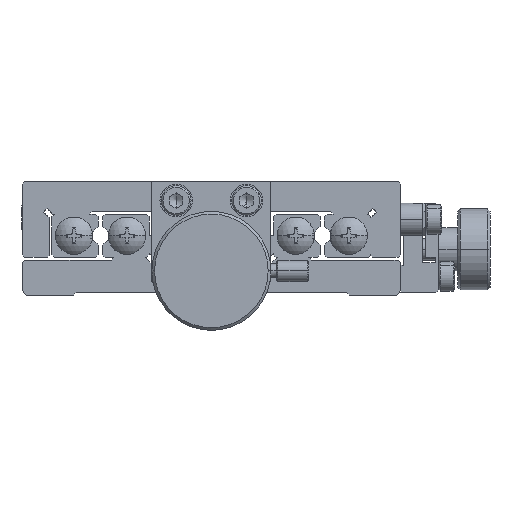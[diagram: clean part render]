
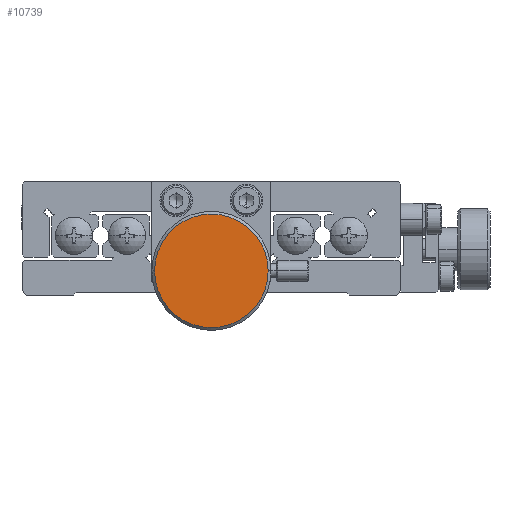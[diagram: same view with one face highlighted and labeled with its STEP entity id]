
A CAD part, front view. The second image highlights one B-rep face of the part: STEP entity #10739.
In plain terms, the highlighted planar face has unit normal (0, -1, 0).
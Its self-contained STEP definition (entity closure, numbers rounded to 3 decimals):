
#284 = DIRECTION ( 'NONE',  ( 0., -1., 0. ) ) ;
#285 = CARTESIAN_POINT ( 'NONE',  ( 0., -110.5, 4.5 ) ) ;
#286 = AXIS2_PLACEMENT_3D ( 'NONE', #285, #284, #348 ) ;
#287 = PLANE ( 'NONE',  #286 ) ;
#288 = FACE_OUTER_BOUND ( 'NONE', #9611, .T. ) ;
#348 = DIRECTION ( 'NONE',  ( 1., 0., 0. ) ) ;
#420 = DIRECTION ( 'NONE',  ( 1., 0., 0. ) ) ;
#421 = DIRECTION ( 'NONE',  ( 0., -1., 0. ) ) ;
#422 = CARTESIAN_POINT ( 'NONE',  ( 0., -110.5, 4.5 ) ) ;
#423 = AXIS2_PLACEMENT_3D ( 'NONE', #422, #421, #420 ) ;
#424 = CIRCLE ( 'NONE', #423, 10.5 ) ;
#1929 = CARTESIAN_POINT ( 'NONE',  ( -10.5, -110.5, 4.5 ) ) ;
#1935 = CARTESIAN_POINT ( 'NONE',  ( 10.5, -110.5, 4.5 ) ) ;
#1942 = DIRECTION ( 'NONE',  ( 1., 0., 0. ) ) ;
#1943 = DIRECTION ( 'NONE',  ( 0., -1., 0. ) ) ;
#1944 = CARTESIAN_POINT ( 'NONE',  ( 0., -110.5, 4.5 ) ) ;
#1945 = AXIS2_PLACEMENT_3D ( 'NONE', #1944, #1943, #1942 ) ;
#1946 = CIRCLE ( 'NONE', #1945, 10.5 ) ;
#9611 = EDGE_LOOP ( 'NONE', ( #9943, #32998 ) ) ;
#9943 = ORIENTED_EDGE ( 'NONE', *, *, #12497, .T. ) ;
#10739 = ADVANCED_FACE ( 'NONE', ( #288 ), #287, .T. ) ;
#12497 = EDGE_CURVE ( 'NONE', #33176, #33175, #424, .T. ) ;
#32998 = ORIENTED_EDGE ( 'NONE', *, *, #33168, .T. ) ;
#33168 = EDGE_CURVE ( 'NONE', #33175, #33176, #1946, .T. ) ;
#33175 = VERTEX_POINT ( 'NONE', #1935 ) ;
#33176 = VERTEX_POINT ( 'NONE', #1929 ) ;
